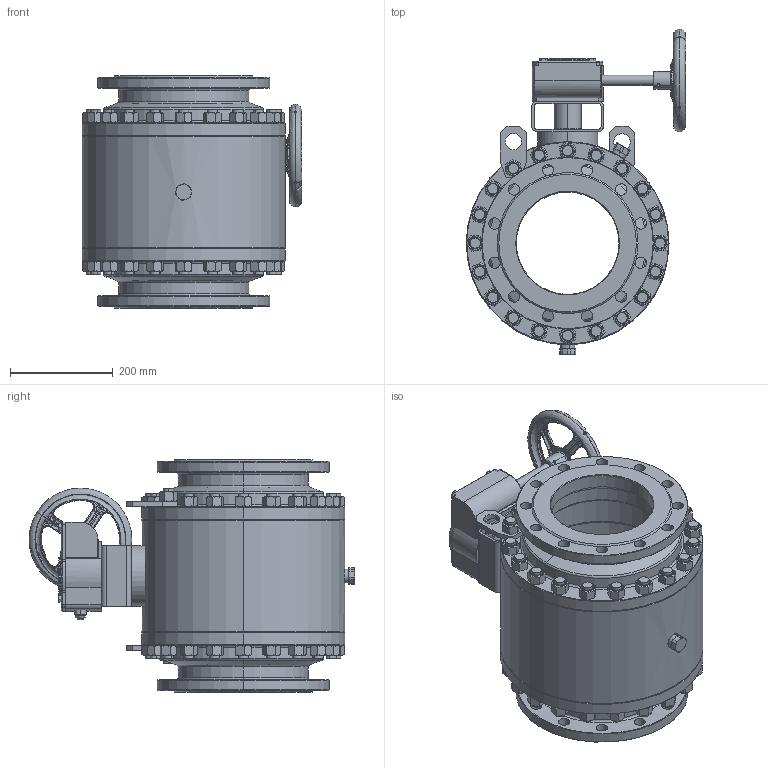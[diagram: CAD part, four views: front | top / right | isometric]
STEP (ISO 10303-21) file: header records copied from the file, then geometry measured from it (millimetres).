
FILE_DESCRIPTION(('STEP AP203'), '1');
FILE_NAME('ZARDP 200.016.21.P.stp', '2013-12-06T12:37:25', ('UNSPECIFIED UNSPECIFIED'), ('UNSPECIFIED'), 'ASCON STEP Converter 1.3', 'Kompas 3D', '');
FILE_SCHEMA(('CONFIG_CONTROL_DESIGN','SUPPORT_RESOURCE_SCHEMA'));
Length unit declared in the file: millimetre
Products named in the file (1): 317
Bounding box: 427.5 x 634.45 x 452 mm (x, y, z)
Surface area: 1879252 mm2 (no closed solid volume)
Topology: 0 solids, 111 shells, 1577 faces, 4871 edges, 3235 vertices
Faces by surface type: plane 512, cylinder 391, cone 340, bspline 318, torus 16
Entity records: 142845 total; most frequent: CARTESIAN_POINT 102926, ORIENTED_EDGE 8071, DIRECTION 6984, EDGE_CURVE 4855, VERTEX_POINT 3234, AXIS2_PLACEMENT_3D 2722, EDGE_LOOP 1842, B_SPLINE_CURVE_WITH_KNOTS 1768
